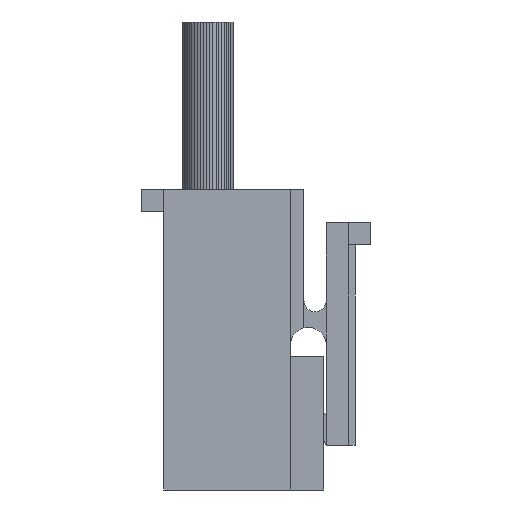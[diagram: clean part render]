
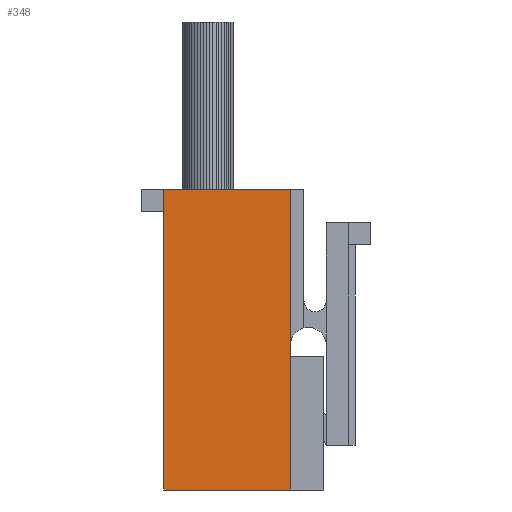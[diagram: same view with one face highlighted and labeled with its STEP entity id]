
A CAD part, front view. The second image highlights one B-rep face of the part: STEP entity #348.
In plain terms, the highlighted planar face has unit normal (0, -1, 0).
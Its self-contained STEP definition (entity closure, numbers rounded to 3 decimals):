
#44 = PLANE('',#45);
#45 = AXIS2_PLACEMENT_3D('',#46,#47,#48);
#46 = CARTESIAN_POINT('',(5.7,0.,0.));
#47 = DIRECTION('',(0.,1.,0.));
#48 = DIRECTION('',(0.,0.,1.));
#142 = VERTEX_POINT('',#143);
#143 = CARTESIAN_POINT('',(5.7,0.,0.));
#164 = EDGE_CURVE('',#142,#165,#167,.T.);
#165 = VERTEX_POINT('',#166);
#166 = CARTESIAN_POINT('',(5.7,0.,6.));
#167 = SURFACE_CURVE('',#168,(#172,#179),.PCURVE_S1.);
#168 = LINE('',#169,#170);
#169 = CARTESIAN_POINT('',(5.7,0.,0.));
#170 = VECTOR('',#171,1.);
#171 = DIRECTION('',(0.,0.,1.));
#172 = PCURVE('',#44,#173);
#173 = DEFINITIONAL_REPRESENTATION('',(#174),#178);
#174 = LINE('',#175,#176);
#175 = CARTESIAN_POINT('',(0.,0.));
#176 = VECTOR('',#177,1.);
#177 = DIRECTION('',(1.,0.));
#178 = ( GEOMETRIC_REPRESENTATION_CONTEXT(2) 
PARAMETRIC_REPRESENTATION_CONTEXT() REPRESENTATION_CONTEXT('2D SPACE',''
  ) );
#179 = PCURVE('',#180,#185);
#180 = PLANE('',#181);
#181 = AXIS2_PLACEMENT_3D('',#182,#183,#184);
#182 = CARTESIAN_POINT('',(0.,0.,0.));
#183 = DIRECTION('',(0.,1.,0.));
#184 = DIRECTION('',(0.,0.,1.));
#185 = DEFINITIONAL_REPRESENTATION('',(#186),#190);
#186 = LINE('',#187,#188);
#187 = CARTESIAN_POINT('',(0.,5.7));
#188 = VECTOR('',#189,1.);
#189 = DIRECTION('',(1.,0.));
#190 = ( GEOMETRIC_REPRESENTATION_CONTEXT(2) 
PARAMETRIC_REPRESENTATION_CONTEXT() REPRESENTATION_CONTEXT('2D SPACE',''
  ) );
#233 = PLANE('',#234);
#234 = AXIS2_PLACEMENT_3D('',#235,#236,#237);
#235 = CARTESIAN_POINT('',(5.7,0.,0.));
#236 = DIRECTION('',(1.,0.,0.));
#237 = DIRECTION('',(0.,0.,1.));
#334 = PLANE('',#335);
#335 = AXIS2_PLACEMENT_3D('',#336,#337,#338);
#336 = CARTESIAN_POINT('',(0.,0.,0.));
#337 = DIRECTION('',(0.,0.,1.));
#338 = DIRECTION('',(1.,0.,0.));
#348 = ADVANCED_FACE('',(#349),#180,.F.);
#349 = FACE_BOUND('',#350,.F.);
#350 = EDGE_LOOP('',(#351,#374,#402,#430,#451));
#351 = ORIENTED_EDGE('',*,*,#352,.F.);
#352 = EDGE_CURVE('',#353,#142,#355,.T.);
#353 = VERTEX_POINT('',#354);
#354 = CARTESIAN_POINT('',(0.,0.,0.));
#355 = SURFACE_CURVE('',#356,(#360,#367),.PCURVE_S1.);
#356 = LINE('',#357,#358);
#357 = CARTESIAN_POINT('',(0.,0.,0.));
#358 = VECTOR('',#359,1.);
#359 = DIRECTION('',(1.,0.,0.));
#360 = PCURVE('',#180,#361);
#361 = DEFINITIONAL_REPRESENTATION('',(#362),#366);
#362 = LINE('',#363,#364);
#363 = CARTESIAN_POINT('',(0.,0.));
#364 = VECTOR('',#365,1.);
#365 = DIRECTION('',(0.,1.));
#366 = ( GEOMETRIC_REPRESENTATION_CONTEXT(2) 
PARAMETRIC_REPRESENTATION_CONTEXT() REPRESENTATION_CONTEXT('2D SPACE',''
  ) );
#367 = PCURVE('',#334,#368);
#368 = DEFINITIONAL_REPRESENTATION('',(#369),#373);
#369 = LINE('',#370,#371);
#370 = CARTESIAN_POINT('',(0.,0.));
#371 = VECTOR('',#372,1.);
#372 = DIRECTION('',(1.,0.));
#373 = ( GEOMETRIC_REPRESENTATION_CONTEXT(2) 
PARAMETRIC_REPRESENTATION_CONTEXT() REPRESENTATION_CONTEXT('2D SPACE',''
  ) );
#374 = ORIENTED_EDGE('',*,*,#375,.T.);
#375 = EDGE_CURVE('',#353,#376,#378,.T.);
#376 = VERTEX_POINT('',#377);
#377 = CARTESIAN_POINT('',(0.,0.,13.5));
#378 = SURFACE_CURVE('',#379,(#383,#390),.PCURVE_S1.);
#379 = LINE('',#380,#381);
#380 = CARTESIAN_POINT('',(0.,0.,0.));
#381 = VECTOR('',#382,1.);
#382 = DIRECTION('',(0.,0.,1.));
#383 = PCURVE('',#180,#384);
#384 = DEFINITIONAL_REPRESENTATION('',(#385),#389);
#385 = LINE('',#386,#387);
#386 = CARTESIAN_POINT('',(0.,0.));
#387 = VECTOR('',#388,1.);
#388 = DIRECTION('',(1.,0.));
#389 = ( GEOMETRIC_REPRESENTATION_CONTEXT(2) 
PARAMETRIC_REPRESENTATION_CONTEXT() REPRESENTATION_CONTEXT('2D SPACE',''
  ) );
#390 = PCURVE('',#391,#396);
#391 = PLANE('',#392);
#392 = AXIS2_PLACEMENT_3D('',#393,#394,#395);
#393 = CARTESIAN_POINT('',(0.,0.,0.));
#394 = DIRECTION('',(1.,0.,0.));
#395 = DIRECTION('',(0.,0.,1.));
#396 = DEFINITIONAL_REPRESENTATION('',(#397),#401);
#397 = LINE('',#398,#399);
#398 = CARTESIAN_POINT('',(0.,0.));
#399 = VECTOR('',#400,1.);
#400 = DIRECTION('',(1.,0.));
#401 = ( GEOMETRIC_REPRESENTATION_CONTEXT(2) 
PARAMETRIC_REPRESENTATION_CONTEXT() REPRESENTATION_CONTEXT('2D SPACE',''
  ) );
#402 = ORIENTED_EDGE('',*,*,#403,.T.);
#403 = EDGE_CURVE('',#376,#404,#406,.T.);
#404 = VERTEX_POINT('',#405);
#405 = CARTESIAN_POINT('',(5.7,0.,13.5));
#406 = SURFACE_CURVE('',#407,(#411,#418),.PCURVE_S1.);
#407 = LINE('',#408,#409);
#408 = CARTESIAN_POINT('',(0.,0.,13.5));
#409 = VECTOR('',#410,1.);
#410 = DIRECTION('',(1.,0.,0.));
#411 = PCURVE('',#180,#412);
#412 = DEFINITIONAL_REPRESENTATION('',(#413),#417);
#413 = LINE('',#414,#415);
#414 = CARTESIAN_POINT('',(13.5,0.));
#415 = VECTOR('',#416,1.);
#416 = DIRECTION('',(0.,1.));
#417 = ( GEOMETRIC_REPRESENTATION_CONTEXT(2) 
PARAMETRIC_REPRESENTATION_CONTEXT() REPRESENTATION_CONTEXT('2D SPACE',''
  ) );
#418 = PCURVE('',#419,#424);
#419 = PLANE('',#420);
#420 = AXIS2_PLACEMENT_3D('',#421,#422,#423);
#421 = CARTESIAN_POINT('',(0.,0.,13.5));
#422 = DIRECTION('',(0.,0.,1.));
#423 = DIRECTION('',(1.,0.,0.));
#424 = DEFINITIONAL_REPRESENTATION('',(#425),#429);
#425 = LINE('',#426,#427);
#426 = CARTESIAN_POINT('',(0.,0.));
#427 = VECTOR('',#428,1.);
#428 = DIRECTION('',(1.,0.));
#429 = ( GEOMETRIC_REPRESENTATION_CONTEXT(2) 
PARAMETRIC_REPRESENTATION_CONTEXT() REPRESENTATION_CONTEXT('2D SPACE',''
  ) );
#430 = ORIENTED_EDGE('',*,*,#431,.F.);
#431 = EDGE_CURVE('',#165,#404,#432,.T.);
#432 = SURFACE_CURVE('',#433,(#437,#444),.PCURVE_S1.);
#433 = LINE('',#434,#435);
#434 = CARTESIAN_POINT('',(5.7,0.,0.));
#435 = VECTOR('',#436,1.);
#436 = DIRECTION('',(0.,0.,1.));
#437 = PCURVE('',#180,#438);
#438 = DEFINITIONAL_REPRESENTATION('',(#439),#443);
#439 = LINE('',#440,#441);
#440 = CARTESIAN_POINT('',(0.,5.7));
#441 = VECTOR('',#442,1.);
#442 = DIRECTION('',(1.,0.));
#443 = ( GEOMETRIC_REPRESENTATION_CONTEXT(2) 
PARAMETRIC_REPRESENTATION_CONTEXT() REPRESENTATION_CONTEXT('2D SPACE',''
  ) );
#444 = PCURVE('',#233,#445);
#445 = DEFINITIONAL_REPRESENTATION('',(#446),#450);
#446 = LINE('',#447,#448);
#447 = CARTESIAN_POINT('',(0.,0.));
#448 = VECTOR('',#449,1.);
#449 = DIRECTION('',(1.,0.));
#450 = ( GEOMETRIC_REPRESENTATION_CONTEXT(2) 
PARAMETRIC_REPRESENTATION_CONTEXT() REPRESENTATION_CONTEXT('2D SPACE',''
  ) );
#451 = ORIENTED_EDGE('',*,*,#164,.F.);
